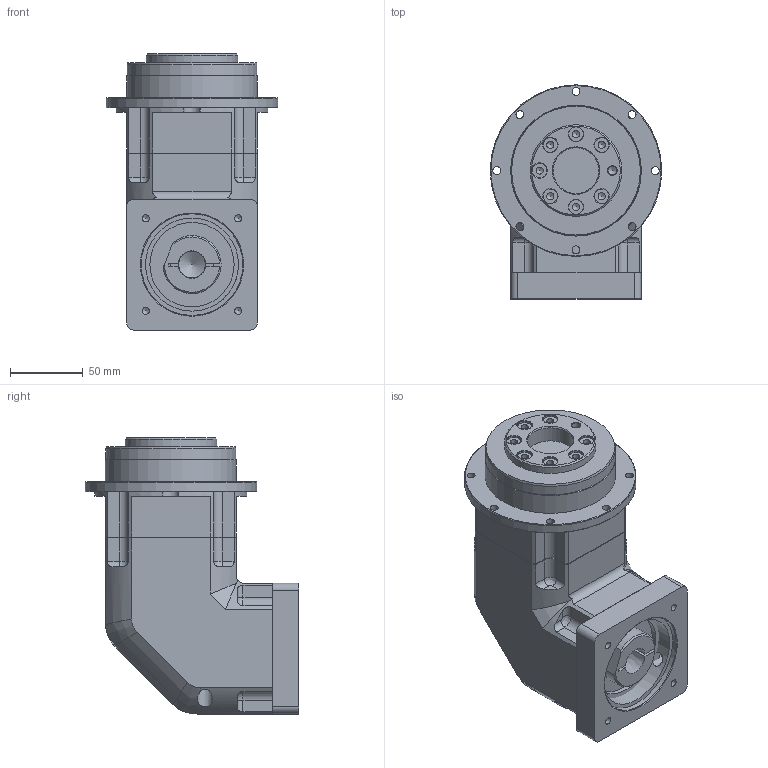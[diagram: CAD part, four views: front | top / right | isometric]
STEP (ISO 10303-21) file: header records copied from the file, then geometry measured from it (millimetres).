
FILE_DESCRIPTION((''),'2;1');
FILE_NAME('C:\Documents and Settings\nagyu\바탕 화면\유성감속기 3D\SPLF090\SPLF090S004~020FA.stp','2009-10-27T09:45:26',('nagyu'),(''),'Autodesk Inventor 2010','Autodesk Inventor 2010','');
FILE_SCHEMA(('AUTOMOTIVE_DESIGN { 1 0 10303 214 1 1 1 1 }'));
Length unit declared in the file: millimetre
Products named in the file (4): SPLF090 1단; SPIF090; 90각 INPUT ADAPTER FLANGE; SPL090 GEARCASE
Assembly tree (3 placements, depth 2):
  SPLF090 1단
    SPIF090
    90각 INPUT ADAPTER FLANGE
    SPL090 GEARCASE
Bounding box: 118 x 147.1 x 189.9 mm (x, y, z)
Volume: 1319996.9 mm3; surface area: 155696.8 mm2
Topology: 3 solids, 3 shells, 286 faces, 728 edges, 470 vertices
Faces by surface type: plane 99, cylinder 94, bspline 64, cone 27, torus 2
Full cylindrical faces by diameter (mm): 5.5 x12, 9.5 x4, 12 x1, 15 x1, 30 x1, 54 x1, 62 x2, 63 x1, 68 x1, 76 x1, 89.4 x1, 90 x1, 118 x1
Entity records: 9504 total; most frequent: CARTESIAN_POINT 3091, DIRECTION 1253, ORIENTED_EDGE 1208, EDGE_CURVE 604, AXIS2_PLACEMENT_3D 505, VERTEX_POINT 429, EDGE_LOOP 421, FACE_OUTER_BOUND 286
